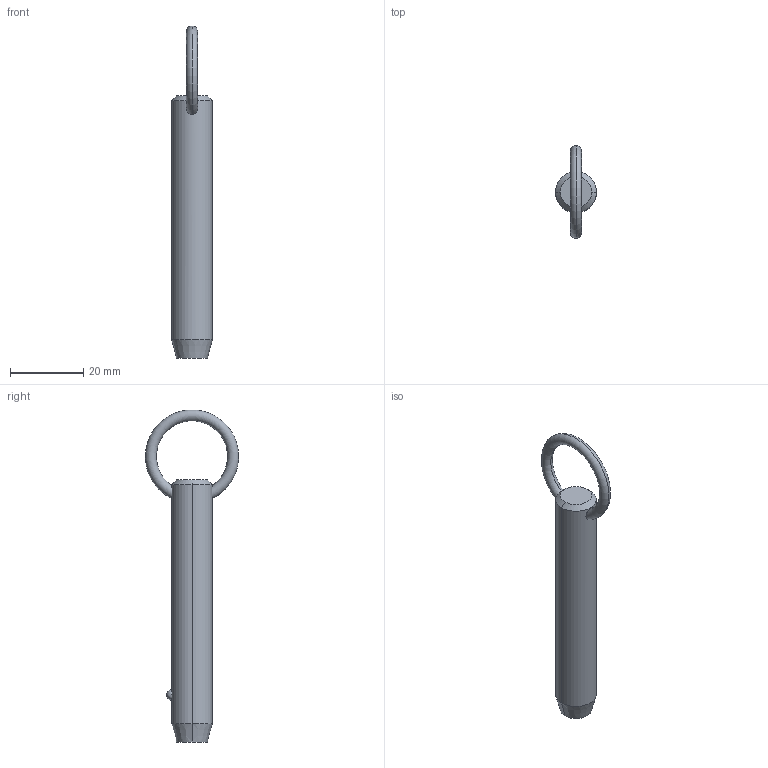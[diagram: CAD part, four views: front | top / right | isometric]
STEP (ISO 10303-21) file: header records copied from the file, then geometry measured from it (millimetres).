
FILE_DESCRIPTION (( 'STEP AP203' ), '1' );
FILE_NAME ('P1250.050-200.step', '2019-07-29T20:31:18', ( '' ), ( '' ), 'SwSTEP 2.0', 'SolidWorks 2017', '' );
FILE_SCHEMA (( 'CONFIG_CONTROL_DESIGN' ));
Length unit declared in the file: millimetre
Products named in the file (1): P1250.050-200
Bounding box: 11.1 x 25.32 x 90.35 mm (x, y, z)
Volume: 7192 mm3; surface area: 3142.5 mm2
Topology: 1 solids, 1 shells, 12 faces, 28 edges, 17 vertices
Faces by surface type: cone 4, torus 2, sphere 2, cylinder 2, plane 2
Entity records: 523 total; most frequent: CARTESIAN_POINT 190, DIRECTION 56, ORIENTED_EDGE 48, AXIS2_PLACEMENT_3D 25, EDGE_CURVE 24, VERTEX_POINT 15, EDGE_LOOP 15, CIRCLE 12
